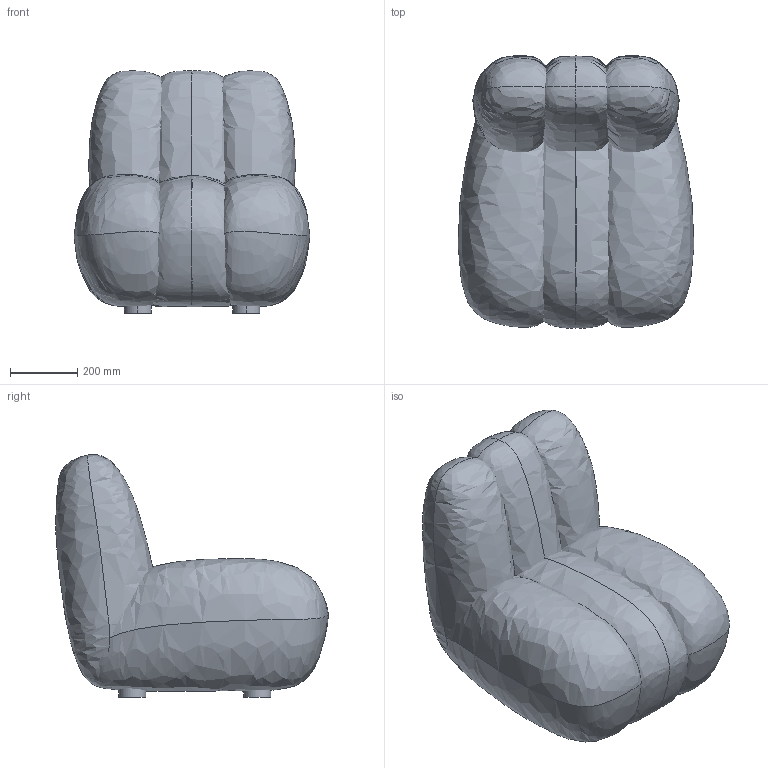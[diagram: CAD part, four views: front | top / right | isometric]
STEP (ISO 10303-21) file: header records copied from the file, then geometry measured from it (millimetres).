
FILE_DESCRIPTION(/* description */ (''),/* implementation_level */ '2;1');
FILE_NAME(/* name */ 'Toe Chair',/* time_stamp */ '2022-12-01T10:04:02+01:00',/* author */ (''),/* organization */ (''),/* preprocessor_version */ 'ST-DEVELOPER v15',/* originating_system */ '',/* authorisation */ '');
FILE_SCHEMA (('AUTOMOTIVE_DESIGN'));
Length unit declared in the file: millimetre
Products named in the file (1): Document
Bounding box: 699.47 x 808.07 x 718.81 mm (x, y, z)
Volume: 181275536.6 mm3; surface area: 4367177.4 mm2
Topology: 8 solids, 12 shells, 30 faces, 82 edges, 44 vertices
Faces by surface type: bspline 22, plane 8
Entity records: 2943 total; most frequent: CARTESIAN_POINT 2435, ORIENTED_EDGE 92, EDGE_CURVE 54, VERTEX_POINT 44, ADVANCED_FACE 30, FACE_OUTER_BOUND 30, EDGE_LOOP 30, B_SPLINE_CURVE_WITH_KNOTS 30
